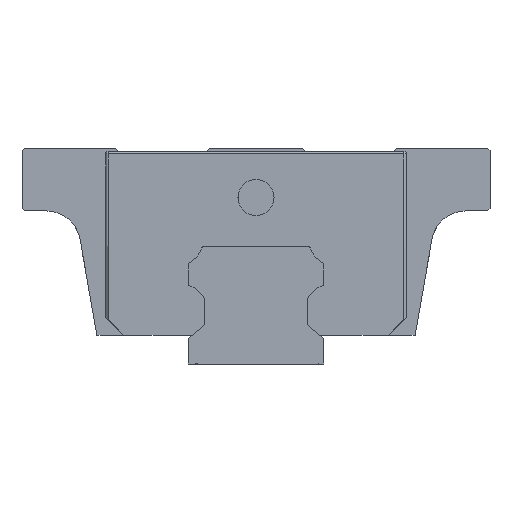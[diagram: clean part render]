
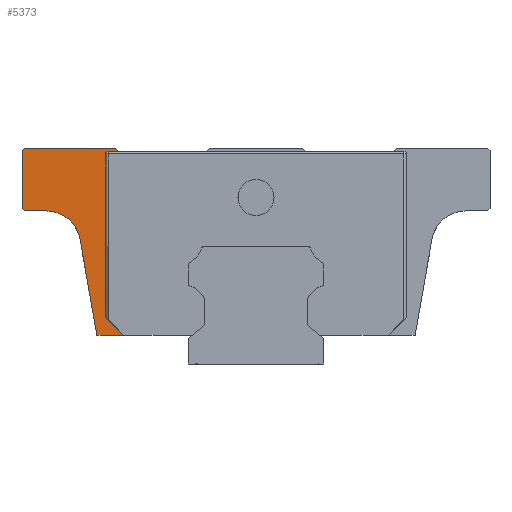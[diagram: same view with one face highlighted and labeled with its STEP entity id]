
A CAD part, left-side view. The second image highlights one B-rep face of the part: STEP entity #5373.
In plain terms, the highlighted planar face has unit normal (-1, 0, 0).
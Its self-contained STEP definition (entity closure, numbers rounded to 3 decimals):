
#38 = VERTEX_POINT ( 'NONE', #1969 ) ;
#263 = LINE ( 'NONE', #1985, #6130 ) ;
#336 = DIRECTION ( 'NONE',  ( 0., -0.174, -0.985 ) ) ;
#369 = CIRCLE ( 'NONE', #7038, 3.75 ) ;
#391 = CARTESIAN_POINT ( 'NONE',  ( -19.75, -6.587, 3.2 ) ) ;
#581 = VERTEX_POINT ( 'NONE', #7056 ) ;
#603 = DIRECTION ( 'NONE',  ( 0., 0., 1. ) ) ;
#624 = ORIENTED_EDGE ( 'NONE', *, *, #1636, .T. ) ;
#646 = VECTOR ( 'NONE', #2106, 1000. ) ;
#685 = LINE ( 'NONE', #3562, #2056 ) ;
#1067 = DIRECTION ( 'NONE',  ( 1., 0., 0. ) ) ;
#1139 = ORIENTED_EDGE ( 'NONE', *, *, #3628, .T. ) ;
#1198 = ORIENTED_EDGE ( 'NONE', *, *, #1240, .F. ) ;
#1240 = EDGE_CURVE ( 'NONE', #38, #3998, #2815, .T. ) ;
#1375 = EDGE_CURVE ( 'NONE', #3998, #1614, #3651, .T. ) ;
#1414 = VECTOR ( 'NONE', #4156, 1000. ) ;
#1439 = DIRECTION ( 'NONE',  ( 0., -1., 0. ) ) ;
#1526 = EDGE_CURVE ( 'NONE', #581, #1614, #3469, .T. ) ;
#1614 = VERTEX_POINT ( 'NONE', #6936 ) ;
#1636 = EDGE_CURVE ( 'NONE', #6890, #1705, #3053, .T. ) ;
#1705 = VERTEX_POINT ( 'NONE', #2078 ) ;
#1744 = ORIENTED_EDGE ( 'NONE', *, *, #6023, .T. ) ;
#1784 = CARTESIAN_POINT ( 'NONE',  ( -19.75, 16.442, 23.335 ) ) ;
#1804 = DIRECTION ( 'NONE',  ( 0., 0.707, -0.707 ) ) ;
#1848 = ORIENTED_EDGE ( 'NONE', *, *, #1526, .T. ) ;
#1878 = LINE ( 'NONE', #6840, #5063 ) ;
#1969 = CARTESIAN_POINT ( 'NONE',  ( -19.75, 16.702, 23.335 ) ) ;
#1985 = CARTESIAN_POINT ( 'NONE',  ( -19.75, 26., 17. ) ) ;
#2026 = LINE ( 'NONE', #5799, #1414 ) ;
#2056 = VECTOR ( 'NONE', #1804, 1000. ) ;
#2078 = CARTESIAN_POINT ( 'NONE',  ( -19.75, 25.74, 24. ) ) ;
#2106 = DIRECTION ( 'NONE',  ( 0., -0.707, -0.707 ) ) ;
#2109 = ORIENTED_EDGE ( 'NONE', *, *, #5728, .T. ) ;
#2159 = ORIENTED_EDGE ( 'NONE', *, *, #4062, .T. ) ;
#2284 = ORIENTED_EDGE ( 'NONE', *, *, #4235, .T. ) ;
#2352 = VERTEX_POINT ( 'NONE', #3495 ) ;
#2420 = CARTESIAN_POINT ( 'NONE',  ( -19.75, 25.74, 17. ) ) ;
#2483 = DIRECTION ( 'NONE',  ( 0., 1., 0. ) ) ;
#2559 = FACE_OUTER_BOUND ( 'NONE', #5978, .T. ) ;
#2815 = LINE ( 'NONE', #3771, #3182 ) ;
#2917 = VERTEX_POINT ( 'NONE', #6571 ) ;
#3041 = LINE ( 'NONE', #5264, #5738 ) ;
#3053 = LINE ( 'NONE', #6430, #5016 ) ;
#3182 = VECTOR ( 'NONE', #7121, 1000. ) ;
#3319 = VECTOR ( 'NONE', #3515, 1000. ) ;
#3390 = VERTEX_POINT ( 'NONE', #6241 ) ;
#3446 = CARTESIAN_POINT ( 'NONE',  ( -19.75, 19.561, 13.901 ) ) ;
#3452 = AXIS2_PLACEMENT_3D ( 'NONE', #391, #5928, #3704 ) ;
#3469 = LINE ( 'NONE', #4658, #6966 ) ;
#3495 = CARTESIAN_POINT ( 'NONE',  ( -19.75, 16.442, 23.595 ) ) ;
#3506 = DIRECTION ( 'NONE',  ( 0., -1., 0. ) ) ;
#3515 = DIRECTION ( 'NONE',  ( 0., 0., -1. ) ) ;
#3562 = CARTESIAN_POINT ( 'NONE',  ( -19.75, 19.976, 29.764 ) ) ;
#3572 = CARTESIAN_POINT ( 'NONE',  ( -19.75, 15.6, 24. ) ) ;
#3606 = ORIENTED_EDGE ( 'NONE', *, *, #6606, .F. ) ;
#3628 = EDGE_CURVE ( 'NONE', #6158, #581, #3041, .T. ) ;
#3651 = LINE ( 'NONE', #5310, #646 ) ;
#3704 = DIRECTION ( 'NONE',  ( 0., 0., 1. ) ) ;
#3729 = ORIENTED_EDGE ( 'NONE', *, *, #1375, .F. ) ;
#3771 = CARTESIAN_POINT ( 'NONE',  ( -19.75, 16.702, 23.125 ) ) ;
#3998 = VERTEX_POINT ( 'NONE', #6109 ) ;
#4026 = CARTESIAN_POINT ( 'NONE',  ( -19.75, 23.254, 17. ) ) ;
#4062 = EDGE_CURVE ( 'NONE', #3390, #6890, #4956, .T. ) ;
#4128 = CARTESIAN_POINT ( 'NONE',  ( -19.75, 26., 23.74 ) ) ;
#4156 = DIRECTION ( 'NONE',  ( 0., 1., 0. ) ) ;
#4235 = EDGE_CURVE ( 'NONE', #6190, #2917, #6868, .T. ) ;
#4254 = VERTEX_POINT ( 'NONE', #4026 ) ;
#4382 = CARTESIAN_POINT ( 'NONE',  ( -19.75, 23.254, 13.25 ) ) ;
#4656 = ORIENTED_EDGE ( 'NONE', *, *, #6928, .T. ) ;
#4658 = CARTESIAN_POINT ( 'NONE',  ( -19.75, 17.674, 3.2 ) ) ;
#4956 = LINE ( 'NONE', #4993, #5838 ) ;
#4993 = CARTESIAN_POINT ( 'NONE',  ( -19.75, 15.233, 23.563 ) ) ;
#5016 = VECTOR ( 'NONE', #2483, 1000. ) ;
#5063 = VECTOR ( 'NONE', #5748, 1000. ) ;
#5089 = DIRECTION ( 'NONE',  ( 0., 0., 1. ) ) ;
#5151 = EDGE_CURVE ( 'NONE', #2917, #5747, #1878, .T. ) ;
#5264 = CARTESIAN_POINT ( 'NONE',  ( -19.75, 20.108, 17. ) ) ;
#5310 = CARTESIAN_POINT ( 'NONE',  ( -19.75, 16.702, 5.2 ) ) ;
#5313 = ORIENTED_EDGE ( 'NONE', *, *, #5151, .T. ) ;
#5341 = EDGE_CURVE ( 'NONE', #38, #2352, #6437, .T. ) ;
#5373 = ADVANCED_FACE ( 'NONE', ( #2559 ), #6508, .T. ) ;
#5699 = ORIENTED_EDGE ( 'NONE', *, *, #5341, .T. ) ;
#5728 = EDGE_CURVE ( 'NONE', #1705, #6190, #685, .T. ) ;
#5738 = VECTOR ( 'NONE', #336, 1000. ) ;
#5747 = VERTEX_POINT ( 'NONE', #2420 ) ;
#5748 = DIRECTION ( 'NONE',  ( 0., -0.707, -0.707 ) ) ;
#5799 = CARTESIAN_POINT ( 'NONE',  ( -19.75, -18.027, 23.595 ) ) ;
#5838 = VECTOR ( 'NONE', #6028, 1000. ) ;
#5928 = DIRECTION ( 'NONE',  ( -1., 0., 0. ) ) ;
#5978 = EDGE_LOOP ( 'NONE', ( #3606, #2159, #624, #2109, #2284, #5313, #4656, #1744, #1139, #1848, #3729, #1198, #5699 ) ) ;
#6023 = EDGE_CURVE ( 'NONE', #4254, #6158, #369, .T. ) ;
#6028 = DIRECTION ( 'NONE',  ( 0., 0.643, 0.766 ) ) ;
#6109 = CARTESIAN_POINT ( 'NONE',  ( -19.75, 16.702, 5.2 ) ) ;
#6130 = VECTOR ( 'NONE', #1439, 1000. ) ;
#6158 = VERTEX_POINT ( 'NONE', #3446 ) ;
#6167 = DIRECTION ( 'NONE',  ( 1., 0., 0. ) ) ;
#6190 = VERTEX_POINT ( 'NONE', #4128 ) ;
#6241 = CARTESIAN_POINT ( 'NONE',  ( -19.75, 15.26, 23.595 ) ) ;
#6322 = CARTESIAN_POINT ( 'NONE',  ( -19.75, 26., 24. ) ) ;
#6430 = CARTESIAN_POINT ( 'NONE',  ( -19.75, 15.6, 24. ) ) ;
#6437 = CIRCLE ( 'NONE', #6548, 0.26 ) ;
#6508 = PLANE ( 'NONE',  #3452 ) ;
#6548 = AXIS2_PLACEMENT_3D ( 'NONE', #1784, #6167, #5089 ) ;
#6571 = CARTESIAN_POINT ( 'NONE',  ( -19.75, 26., 17.26 ) ) ;
#6606 = EDGE_CURVE ( 'NONE', #3390, #2352, #2026, .T. ) ;
#6840 = CARTESIAN_POINT ( 'NONE',  ( -19.75, 2.676, -6.064 ) ) ;
#6868 = LINE ( 'NONE', #6322, #3319 ) ;
#6890 = VERTEX_POINT ( 'NONE', #3572 ) ;
#6928 = EDGE_CURVE ( 'NONE', #5747, #4254, #263, .T. ) ;
#6936 = CARTESIAN_POINT ( 'NONE',  ( -19.75, 14.702, 3.2 ) ) ;
#6966 = VECTOR ( 'NONE', #3506, 1000. ) ;
#7038 = AXIS2_PLACEMENT_3D ( 'NONE', #4382, #1067, #603 ) ;
#7056 = CARTESIAN_POINT ( 'NONE',  ( -19.75, 17.674, 3.2 ) ) ;
#7121 = DIRECTION ( 'NONE',  ( 0., 0., -1. ) ) ;
